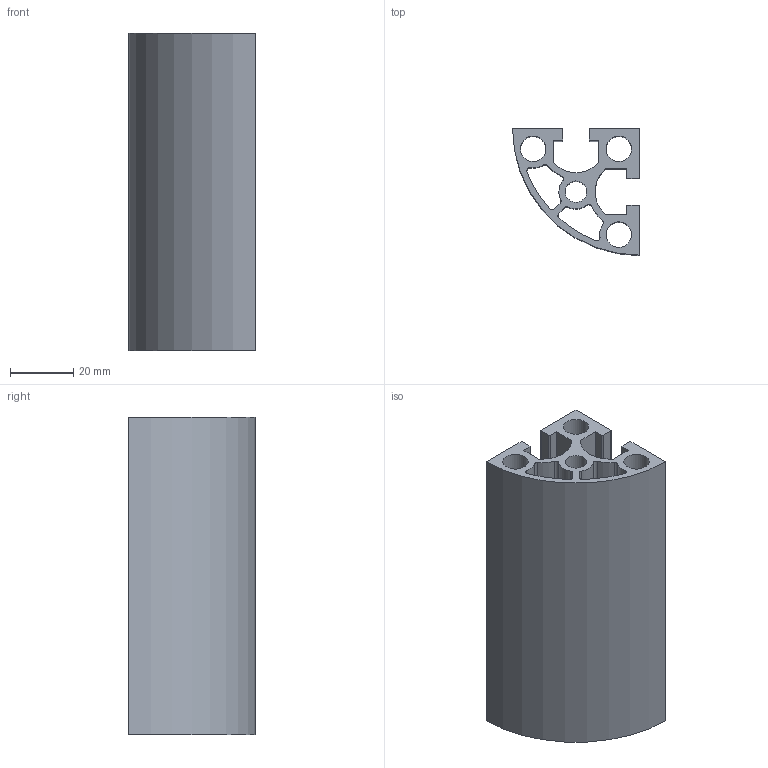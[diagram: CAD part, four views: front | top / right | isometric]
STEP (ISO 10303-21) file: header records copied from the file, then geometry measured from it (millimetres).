
FILE_DESCRIPTION(/* description */ (''),/* implementation_level */ '2;1');
FILE_NAME(/* name */ '\\AM-PUBLIC\Share\02.新型錄-2021\AM8系列\8系列-3D\01.8系列-AM-鋁擠\AM8-40R_100L.stp',/* time_stamp */ '2021-12-06T16:41:12+08:00',/* author */ ('user'),/* organization */ (''),/* preprocessor_version */ 'ST-DEVELOPER v18.1',/* originating_system */ 'Autodesk Inventor 2021',/* authorisation */ '');
FILE_SCHEMA (('AUTOMOTIVE_DESIGN { 1 0 10303 214 3 1 1 }'));
Length unit declared in the file: millimetre
Products named in the file (1): AM8-40R_100L
Bounding box: 40 x 40 x 100 mm (x, y, z)
Volume: 54907.4 mm3; surface area: 40153.1 mm2
Topology: 1 solids, 1 shells, 53 faces, 153 edges, 102 vertices
Faces by surface type: cylinder 33, plane 20
Full cylindrical faces by diameter (mm): 6.8 x1, 8 x3
Entity records: 1847 total; most frequent: DIRECTION 327, CARTESIAN_POINT 309, ORIENTED_EDGE 306, EDGE_CURVE 153, AXIS2_PLACEMENT_3D 120, VERTEX_POINT 102, LINE 87, VECTOR 87
